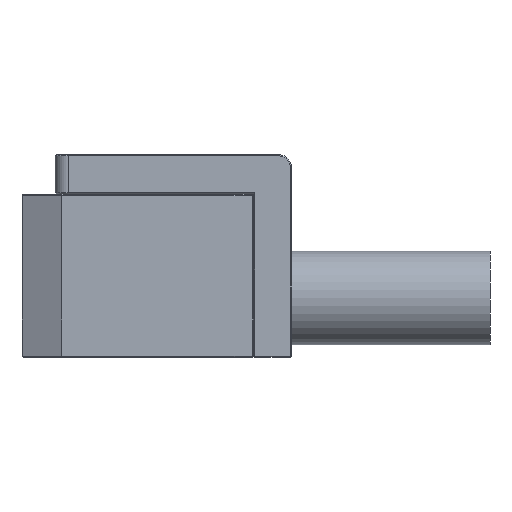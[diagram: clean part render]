
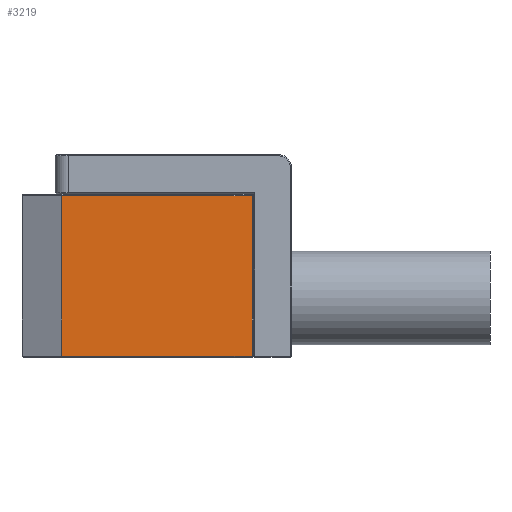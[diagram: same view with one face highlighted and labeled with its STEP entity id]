
A CAD part, left-side view. The second image highlights one B-rep face of the part: STEP entity #3219.
In plain terms, the highlighted planar face has unit normal (-1, 0, 0).
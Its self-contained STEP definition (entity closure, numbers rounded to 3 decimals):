
#361 = VECTOR ( 'NONE', #9085, 1000. ) ;
#418 = LINE ( 'NONE', #8889, #361 ) ;
#548 = EDGE_CURVE ( 'NONE', #2185, #10955, #10394, .T. ) ;
#751 = EDGE_CURVE ( 'NONE', #10955, #3158, #9353, .T. ) ;
#1203 = LINE ( 'NONE', #10345, #1762 ) ;
#1269 = VERTEX_POINT ( 'NONE', #2079 ) ;
#1762 = VECTOR ( 'NONE', #10290, 1000. ) ;
#2017 = CARTESIAN_POINT ( 'NONE',  ( -6.618, 12.673, -30.8 ) ) ;
#2079 = CARTESIAN_POINT ( 'NONE',  ( -6.618, 12.673, -30.8 ) ) ;
#2185 = VERTEX_POINT ( 'NONE', #12126 ) ;
#2262 = VECTOR ( 'NONE', #11733, 1000. ) ;
#2377 = EDGE_CURVE ( 'NONE', #1269, #3158, #1203, .T. ) ;
#2498 = EDGE_CURVE ( 'NONE', #2185, #1269, #418, .T. ) ;
#2535 = PLANE ( 'NONE',  #11287 ) ;
#3158 = VERTEX_POINT ( 'NONE', #4801 ) ;
#3219 = ADVANCED_FACE ( 'NONE', ( #4193 ), #2535, .T. ) ;
#4193 = FACE_OUTER_BOUND ( 'NONE', #4308, .T. ) ;
#4308 = EDGE_LOOP ( 'NONE', ( #8829, #4894, #4455, #6508 ) ) ;
#4455 = ORIENTED_EDGE ( 'NONE', *, *, #2498, .F. ) ;
#4801 = CARTESIAN_POINT ( 'NONE',  ( -6.618, 12.673, -6.5 ) ) ;
#4894 = ORIENTED_EDGE ( 'NONE', *, *, #2377, .F. ) ;
#6508 = ORIENTED_EDGE ( 'NONE', *, *, #548, .T. ) ;
#7172 = DIRECTION ( 'NONE',  ( -1., 0., 0. ) ) ;
#7830 = CARTESIAN_POINT ( 'NONE',  ( -6.618, -16.127, -6.5 ) ) ;
#8174 = DIRECTION ( 'NONE',  ( 0., 1., 0. ) ) ;
#8301 = CARTESIAN_POINT ( 'NONE',  ( -6.618, 12.673, -6.5 ) ) ;
#8829 = ORIENTED_EDGE ( 'NONE', *, *, #751, .T. ) ;
#8889 = CARTESIAN_POINT ( 'NONE',  ( -6.618, 12.845, -30.8 ) ) ;
#9085 = DIRECTION ( 'NONE',  ( 0., 1., 0. ) ) ;
#9353 = LINE ( 'NONE', #8301, #11992 ) ;
#10290 = DIRECTION ( 'NONE',  ( 0., 0., 1. ) ) ;
#10345 = CARTESIAN_POINT ( 'NONE',  ( -6.618, 12.673, -6.5 ) ) ;
#10394 = LINE ( 'NONE', #11988, #2262 ) ;
#10955 = VERTEX_POINT ( 'NONE', #7830 ) ;
#11159 = DIRECTION ( 'NONE',  ( 0., 0., 1. ) ) ;
#11287 = AXIS2_PLACEMENT_3D ( 'NONE', #2017, #7172, #11159 ) ;
#11733 = DIRECTION ( 'NONE',  ( 0., 0., 1. ) ) ;
#11988 = CARTESIAN_POINT ( 'NONE',  ( -6.618, -16.127, -30.8 ) ) ;
#11992 = VECTOR ( 'NONE', #8174, 1000. ) ;
#12126 = CARTESIAN_POINT ( 'NONE',  ( -6.618, -16.127, -30.8 ) ) ;
